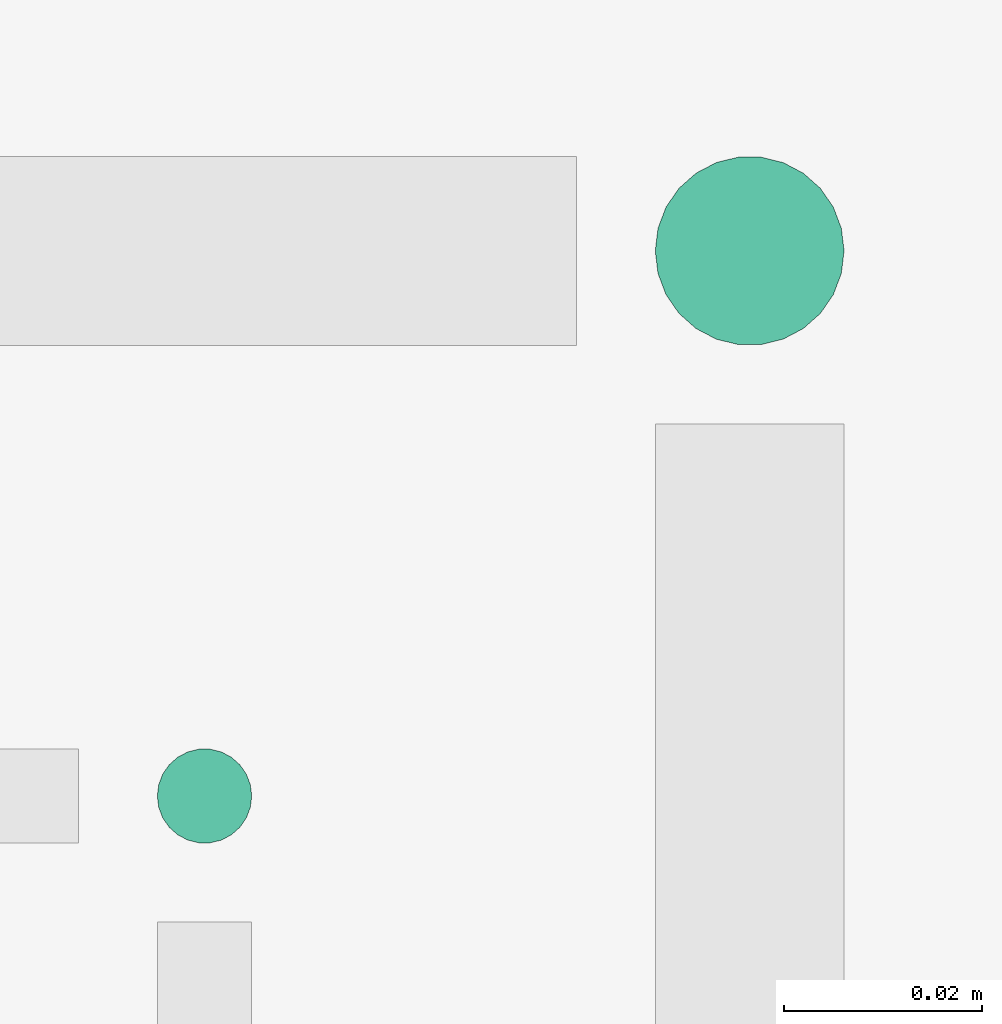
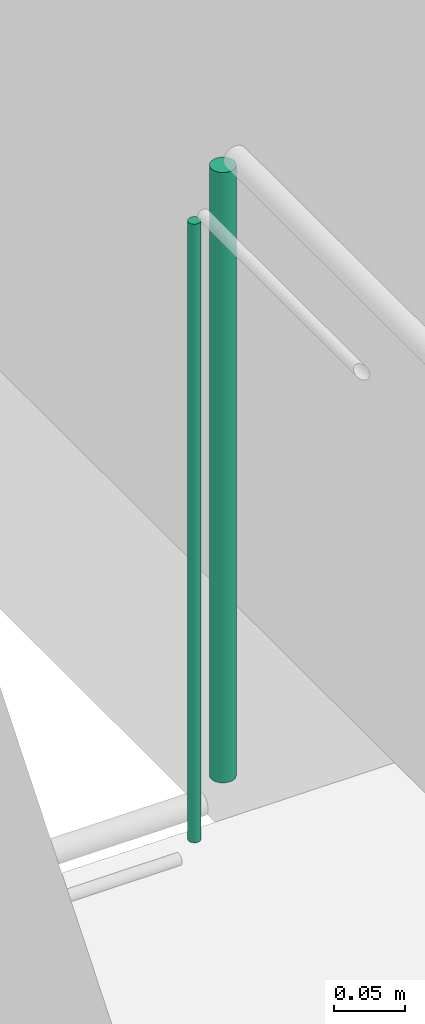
# One storey, part 10 of 22: 2 flow segments.
"""IFC2X3 building model written with IfcOpenShell, lengths in millimetres."""

from ifc_helpers import new_model, entity, si_unit, converted_unit, derived_unit, direction, frame, origin, origin_2d_with_axis, place, context, subcontext, project, spatial, circle, extrude, source, transform, mapped, material, type_object, type_shapes, element, save


model = new_model("IFC2X3")

# Units and contexts
model_context = context("Model", 3, precision=0.01, world=origin(), true_north=direction((6.123031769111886e-17, 1.0)))
body_context = subcontext(model_context, "Body", "Model", "MODEL_VIEW")
ifc_project = project(units=[si_unit("LENGTHUNIT", "METRE", prefix="MILLI"), si_unit("AREAUNIT", "SQUARE_METRE"), si_unit("VOLUMEUNIT", "CUBIC_METRE"), converted_unit("PLANEANGLEUNIT", "DEGREE", entity("IfcRatioMeasure", 0.017453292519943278), si_unit("PLANEANGLEUNIT", "RADIAN"), dimensions=[0, 0, 0, 0, 0, 0, 0]), si_unit("MASSUNIT", "GRAM", prefix="KILO"), derived_unit("MASSDENSITYUNIT", [(si_unit("MASSUNIT", "GRAM", prefix="KILO"), 1), (si_unit("LENGTHUNIT", "METRE"), -3)]), derived_unit("MOMENTOFINERTIAUNIT", [(si_unit("LENGTHUNIT", "METRE"), 4)]), si_unit("TIMEUNIT", "SECOND"), si_unit("FREQUENCYUNIT", "HERTZ"), si_unit("THERMODYNAMICTEMPERATUREUNIT", "DEGREE_CELSIUS"), derived_unit("THERMALTRANSMITTANCEUNIT", [(si_unit("MASSUNIT", "GRAM", prefix="KILO"), 1), (si_unit("THERMODYNAMICTEMPERATUREUNIT", "KELVIN"), -1), (si_unit("TIMEUNIT", "SECOND"), -3)]), derived_unit("VOLUMETRICFLOWRATEUNIT", [(si_unit("LENGTHUNIT", "METRE"), 3), (si_unit("TIMEUNIT", "SECOND"), -1)]), derived_unit("MASSFLOWRATEUNIT", [(si_unit("MASSUNIT", "GRAM", prefix="KILO"), 1), (si_unit("TIMEUNIT", "SECOND"), -1)]), derived_unit("ROTATIONALFREQUENCYUNIT", [(si_unit("TIMEUNIT", "SECOND"), -1)]), si_unit("ELECTRICCURRENTUNIT", "AMPERE"), si_unit("ELECTRICVOLTAGEUNIT", "VOLT"), si_unit("POWERUNIT", "WATT"), si_unit("FORCEUNIT", "NEWTON", prefix="KILO"), si_unit("ILLUMINANCEUNIT", "LUX"), si_unit("LUMINOUSFLUXUNIT", "LUMEN"), si_unit("LUMINOUSINTENSITYUNIT", "CANDELA"), derived_unit("USERDEFINED", [(si_unit("MASSUNIT", "GRAM", prefix="KILO"), -1), (si_unit("LENGTHUNIT", "METRE"), -2), (si_unit("TIMEUNIT", "SECOND"), 3), (si_unit("LUMINOUSFLUXUNIT", "LUMEN"), 1)]), derived_unit("SOUNDPOWERUNIT", [(si_unit("MASSUNIT", "GRAM", prefix="KILO"), 1), (si_unit("LENGTHUNIT", "METRE"), 2), (si_unit("TIMEUNIT", "SECOND"), -3)]), derived_unit("SOUNDPRESSUREUNIT", [(si_unit("MASSUNIT", "GRAM", prefix="KILO"), 1), (si_unit("LENGTHUNIT", "METRE"), -1), (si_unit("TIMEUNIT", "SECOND"), -2)]), derived_unit("LINEARVELOCITYUNIT", [(si_unit("LENGTHUNIT", "METRE"), 1), (si_unit("TIMEUNIT", "SECOND"), -1)]), si_unit("PRESSUREUNIT", "PASCAL"), derived_unit("USERDEFINED", [(si_unit("LENGTHUNIT", "METRE"), -2), (si_unit("MASSUNIT", "GRAM", prefix="KILO"), 1), (si_unit("TIMEUNIT", "SECOND"), -2)]), derived_unit("LINEARFORCEUNIT", [(si_unit("MASSUNIT", "GRAM", prefix="KILO"), 1), (si_unit("LENGTHUNIT", "METRE"), 1), (si_unit("TIMEUNIT", "SECOND"), -2), (si_unit("LENGTHUNIT", "METRE"), -1)]), derived_unit("PLANARFORCEUNIT", [(si_unit("MASSUNIT", "GRAM", prefix="KILO"), 1), (si_unit("LENGTHUNIT", "METRE"), 1), (si_unit("TIMEUNIT", "SECOND"), -2), (si_unit("LENGTHUNIT", "METRE"), -2)])], contexts=[model_context])

# Site, building, storey
site_placement = place(None, origin())
site = spatial("IfcSite", under=ifc_project, at=site_placement, Name="Default", CompositionType="ELEMENT")
building_placement = place(site_placement, origin())
building = spatial("IfcBuilding", under=site, at=building_placement, CompositionType="ELEMENT")
storey_placement = place(building_placement, frame((0.0, 0.0, 3300.0)))
storey = spatial("IfcBuildingStorey", under=building, at=storey_placement, Name="Level 2", CompositionType="ELEMENT", Elevation=3299.99999999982)

# Flow segments
ifc_material = material(Name="<Unnamed>")
pipe_segment_type_1 = type_object("IfcPipeSegmentType", Name="Pipe Types:Standard:Standard : Pipe Types:Standard", PredefinedType="NOTDEFINED", material=ifc_material)
shared_shape_1 = source(origin(), body_context, "Body", "SweptSolid", [
    extrude(circle(Radius=4.76, at=origin_2d_with_axis()), frame((-9781.602112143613, 3894.1627893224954, 3561.920187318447)), (0.0, 0.0, 1.0), 532.6214495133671),
])
type_shapes(pipe_segment_type_1, [shared_shape_1])
flow_segment_1_placement = place(storey_placement, frame((0.0, 0.0, -3300.0)))
element("IfcFlowSegment", 1, at=flow_segment_1_placement, inside=storey, type_object=pipe_segment_type_1, material=ifc_material, Name="Pipe Types:Standard:Standard : Pipe Types:Standard:Standard:Standard : Pipe Types:Standard : Pipe Types:Standard:Standard : Pipe Types:Standard", ObjectType="Pipe Types:Standard:Standard : Pipe Types:Standard:Standard:Standard : Pipe Types:Standard : Pipe Types:Standard:Standard : Pipe Types:Standard", context=body_context, shape_type="MappedRepresentation", body=[
    mapped(shared_shape_1, transform((0.0, 0.0, 0.0), scale=1.0)),
])
pipe_segment_type_2 = type_object("IfcPipeSegmentType", Name="Pipe Types:Standard:Standard : Pipe Types:Standard", PredefinedType="NOTDEFINED", material=ifc_material)
shared_shape_2 = source(origin(), body_context, "Body", "SweptSolid", [
    extrude(circle(Radius=9.525, at=origin_2d_with_axis()), frame((-9726.603454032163, 3949.162789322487, 3564.1826873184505), z_axis=(0.0, 0.0, 1.0), x_axis=(-1.0, 0.0, 0.0)), (0.0, 0.0, 1.0), 525.5964495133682),
])
type_shapes(pipe_segment_type_2, [shared_shape_2])
flow_segment_2_placement = place(storey_placement, frame((0.0, 0.0, -3300.0)))
element("IfcFlowSegment", 2, at=flow_segment_2_placement, inside=storey, type_object=pipe_segment_type_2, material=ifc_material, Name="Pipe Types:Standard:Standard : Pipe Types:Standard:Standard:Standard : Pipe Types:Standard : Pipe Types:Standard:Standard : Pipe Types:Standard", ObjectType="Pipe Types:Standard:Standard : Pipe Types:Standard:Standard:Standard : Pipe Types:Standard : Pipe Types:Standard:Standard : Pipe Types:Standard", context=body_context, shape_type="MappedRepresentation", body=[
    mapped(shared_shape_2, transform((0.0, 0.0, 0.0), scale=1.0)),
])

save(model, "model.ifc")
